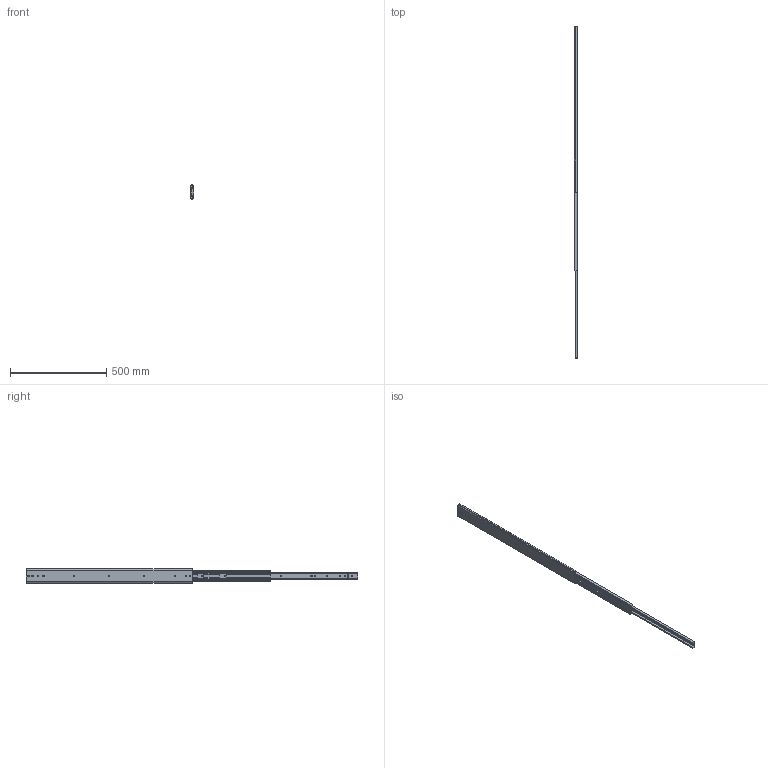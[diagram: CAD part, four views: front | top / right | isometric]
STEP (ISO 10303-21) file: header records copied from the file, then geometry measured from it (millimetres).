
FILE_DESCRIPTION(/* description */ ('Unknown'),/* implementation_level */ '2;1');
FILE_NAME(/* name */ '76J01-34 open',/* time_stamp */ '2024-07-26T16:10:00+08:00',/* author */ ('Unknown'),/* organization */ ('Unknown'),/* preprocessor_version */ 'ST-DEVELOPER v18.104',/* originating_system */ 'Solid Edge',/* authorisation */ 'Unknown');
FILE_SCHEMA (('AUTOMOTIVE_DESIGN {1 0 10303 214 3 1 1}'));
Length unit declared in the file: millimetre
Products named in the file (4): 76J01-34 open; 76J01 34 inch 內_0; 76J01 34 吋中_; 76J01 34 吋
Assembly tree (3 placements, depth 2):
  76J01-34 open
    76J01 34 inch 內_0
    76J01 34 吋中_
    76J01 34 吋
Bounding box: 19.3 x 1726.5 x 76.76 mm (x, y, z)
Volume: 678211.6 mm3; surface area: 422455.8 mm2
Topology: 3 solids, 3 shells, 193 faces, 595 edges, 402 vertices
Faces by surface type: plane 104, cylinder 89
Full cylindrical faces by diameter (mm): 5.2 x14, 7.1 x2
Entity records: 7062 total; most frequent: CARTESIAN_POINT 1149, DIRECTION 1135, ORIENTED_EDGE 1126, EDGE_CURVE 563, VERTEX_POINT 386, LINE 383, VECTOR 383, AXIS2_PLACEMENT_3D 376
